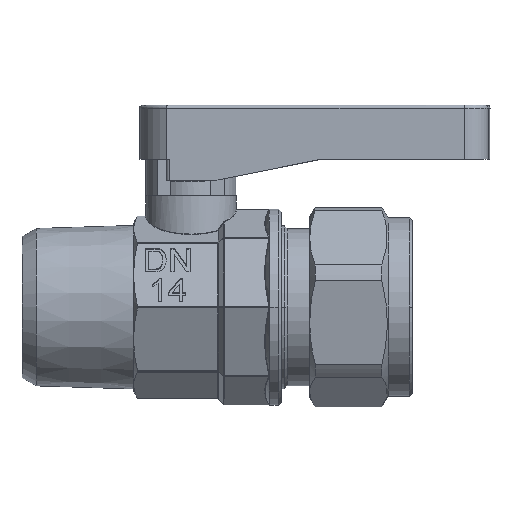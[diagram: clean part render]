
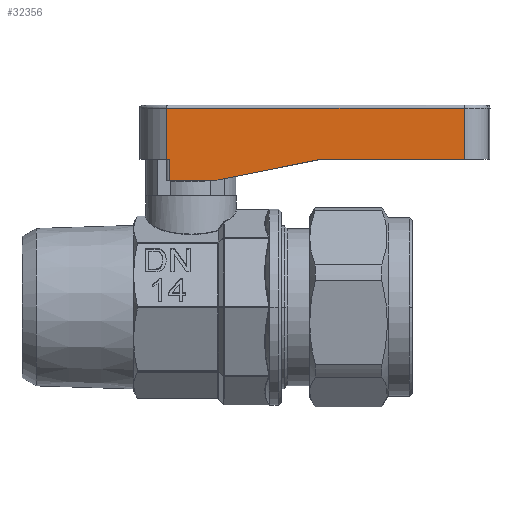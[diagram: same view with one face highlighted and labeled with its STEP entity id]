
A CAD part, top view. The second image highlights one B-rep face of the part: STEP entity #32356.
In plain terms, the highlighted planar face has unit normal (0, 0, 1).
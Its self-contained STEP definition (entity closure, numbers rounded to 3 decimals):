
#2155 = LINE ( 'NONE', #34550, #2158 ) ;
#2158 = VECTOR ( 'NONE', #34547, 1000. ) ;
#2163 = LINE ( 'NONE', #34570, #2168 ) ;
#2168 = VECTOR ( 'NONE', #34617, 1000. ) ;
#4337 = CARTESIAN_POINT ( 'NONE',  ( 12.75, 22.75, 7.5 ) ) ;
#4350 = DIRECTION ( 'NONE',  ( 0.981, 0.196, 0. ) ) ;
#4887 = CARTESIAN_POINT ( 'NONE',  ( -3.5, 27., 7.5 ) ) ;
#4928 = DIRECTION ( 'NONE',  ( 0., -1., 0. ) ) ;
#5167 = CARTESIAN_POINT ( 'NONE',  ( 20.66, 24.5, 7.5 ) ) ;
#5186 = DIRECTION ( 'NONE',  ( 1., 0., 0. ) ) ;
#6925 = DIRECTION ( 'NONE',  ( -1., 0., 0. ) ) ;
#6966 = CARTESIAN_POINT ( 'NONE',  ( 20.66, 33., 7.5 ) ) ;
#7240 = AXIS2_PLACEMENT_3D ( 'NONE', #10492, #10493, #10494 ) ;
#7900 = FACE_OUTER_BOUND ( 'NONE', #13540, .T. ) ;
#8682 = CARTESIAN_POINT ( 'NONE',  ( -3.5, 21., 7.5 ) ) ;
#10472 = PLANE ( 'NONE',  #7240 ) ;
#10492 = CARTESIAN_POINT ( 'NONE',  ( -4., 21., 7.5 ) ) ;
#10493 = DIRECTION ( 'NONE',  ( 0., 0., 1. ) ) ;
#10494 = DIRECTION ( 'NONE',  ( 1., 0., 0. ) ) ;
#10841 = CARTESIAN_POINT ( 'NONE',  ( 45.32, 24.5, 7.5 ) ) ;
#10843 = CARTESIAN_POINT ( 'NONE',  ( -4., 24.5, 7.5 ) ) ;
#10979 = CARTESIAN_POINT ( 'NONE',  ( -3.5, 24.5, 7.5 ) ) ;
#10989 = CARTESIAN_POINT ( 'NONE',  ( -4., 33., 7.5 ) ) ;
#13540 = EDGE_LOOP ( 'NONE', ( #45984, #45980, #45981, #45977, #45979, #45974, #45975, #45969 ) ) ;
#15582 = VERTEX_POINT ( 'NONE', #45386 ) ;
#15586 = VERTEX_POINT ( 'NONE', #45394 ) ;
#15616 = VERTEX_POINT ( 'NONE', #45454 ) ;
#15785 = VERTEX_POINT ( 'NONE', #8682 ) ;
#27832 = LINE ( 'NONE', #4337, #27845 ) ;
#27845 = VECTOR ( 'NONE', #4350, 1000. ) ;
#28096 = LINE ( 'NONE', #4887, #28102 ) ;
#28102 = VECTOR ( 'NONE', #4928, 1000. ) ;
#28234 = LINE ( 'NONE', #5167, #28241 ) ;
#28241 = VECTOR ( 'NONE', #5186, 1000. ) ;
#29050 = LINE ( 'NONE', #6966, #29053 ) ;
#29053 = VECTOR ( 'NONE', #6925, 1000. ) ;
#29177 = LINE ( 'NONE', #30799, #29180 ) ;
#29180 = VECTOR ( 'NONE', #30803, 1000. ) ;
#29187 = LINE ( 'NONE', #30823, #29190 ) ;
#29190 = VECTOR ( 'NONE', #30818, 1000. ) ;
#30799 = CARTESIAN_POINT ( 'NONE',  ( 45.32, 28.75, 7.5 ) ) ;
#30803 = DIRECTION ( 'NONE',  ( 0., 1., 0. ) ) ;
#30818 = DIRECTION ( 'NONE',  ( 0., -1., 0. ) ) ;
#30823 = CARTESIAN_POINT ( 'NONE',  ( -4., 27., 7.5 ) ) ;
#32356 = ADVANCED_FACE ( 'NONE', ( #7900 ), #10472, .T. ) ;
#34547 = DIRECTION ( 'NONE',  ( 1., 0., 0. ) ) ;
#34550 = CARTESIAN_POINT ( 'NONE',  ( 0., 21., 7.5 ) ) ;
#34570 = CARTESIAN_POINT ( 'NONE',  ( 35.634, 24.5, 7.5 ) ) ;
#34617 = DIRECTION ( 'NONE',  ( 1., 0., 0. ) ) ;
#39027 = VERTEX_POINT ( 'NONE', #10843 ) ;
#39028 = VERTEX_POINT ( 'NONE', #10841 ) ;
#39419 = VERTEX_POINT ( 'NONE', #10989 ) ;
#39423 = VERTEX_POINT ( 'NONE', #10979 ) ;
#43115 = EDGE_CURVE ( 'NONE', #15785, #15586, #2155, .T. ) ;
#43133 = EDGE_CURVE ( 'NONE', #15582, #39028, #2163, .T. ) ;
#45386 = CARTESIAN_POINT ( 'NONE',  ( 21.5, 24.5, 7.5 ) ) ;
#45394 = CARTESIAN_POINT ( 'NONE',  ( 4., 21., 7.5 ) ) ;
#45454 = CARTESIAN_POINT ( 'NONE',  ( 45.32, 33., 7.5 ) ) ;
#45969 = ORIENTED_EDGE ( 'NONE', *, *, #43115, .T. ) ;
#45974 = ORIENTED_EDGE ( 'NONE', *, *, #47866, .T. ) ;
#45975 = ORIENTED_EDGE ( 'NONE', *, *, #47793, .T. ) ;
#45977 = ORIENTED_EDGE ( 'NONE', *, *, #48277, .T. ) ;
#45979 = ORIENTED_EDGE ( 'NONE', *, *, #48416, .T. ) ;
#45980 = ORIENTED_EDGE ( 'NONE', *, *, #43133, .T. ) ;
#45981 = ORIENTED_EDGE ( 'NONE', *, *, #48403, .T. ) ;
#45984 = ORIENTED_EDGE ( 'NONE', *, *, #47677, .T. ) ;
#47677 = EDGE_CURVE ( 'NONE', #15586, #15582, #27832, .T. ) ;
#47793 = EDGE_CURVE ( 'NONE', #39423, #15785, #28096, .T. ) ;
#47866 = EDGE_CURVE ( 'NONE', #39027, #39423, #28234, .T. ) ;
#48277 = EDGE_CURVE ( 'NONE', #15616, #39419, #29050, .T. ) ;
#48403 = EDGE_CURVE ( 'NONE', #39028, #15616, #29177, .T. ) ;
#48416 = EDGE_CURVE ( 'NONE', #39419, #39027, #29187, .T. ) ;
